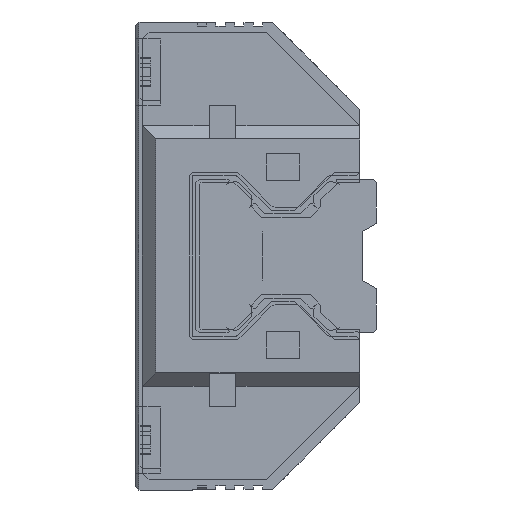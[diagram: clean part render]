
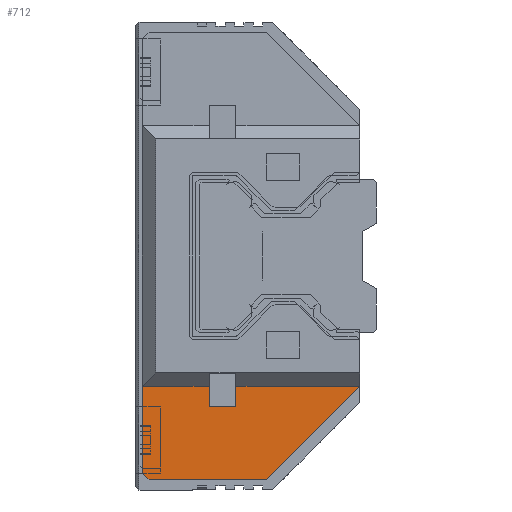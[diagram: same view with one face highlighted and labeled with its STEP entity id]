
A CAD part, left-side view. The second image highlights one B-rep face of the part: STEP entity #712.
In plain terms, the highlighted planar face has unit normal (-1, 0, 0).
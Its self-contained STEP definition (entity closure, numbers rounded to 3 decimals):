
#712 = ADVANCED_FACE( '', ( #2337 ), #2338, .T. );
#2337 = FACE_OUTER_BOUND( '', #4145, .T. );
#2338 = PLANE( '', #4146 );
#4145 = EDGE_LOOP( '', ( #8449, #8450, #8451, #8452, #8453, #8454, #8455, #8456, #8457 ) );
#4146 = AXIS2_PLACEMENT_3D( '', #8458, #8459, #8460 );
#8449 = ORIENTED_EDGE( '', *, *, #11073, .F. );
#8450 = ORIENTED_EDGE( '', *, *, #10962, .F. );
#8451 = ORIENTED_EDGE( '', *, *, #10947, .F. );
#8452 = ORIENTED_EDGE( '', *, *, #10990, .F. );
#8453 = ORIENTED_EDGE( '', *, *, #10988, .F. );
#8454 = ORIENTED_EDGE( '', *, *, #10986, .F. );
#8455 = ORIENTED_EDGE( '', *, *, #10959, .F. );
#8456 = ORIENTED_EDGE( '', *, *, #11069, .T. );
#8457 = ORIENTED_EDGE( '', *, *, #11072, .T. );
#8458 = CARTESIAN_POINT( '', ( -52., 49., -19.5 ) );
#8459 = DIRECTION( '', ( -1., 0., 0. ) );
#8460 = DIRECTION( '', ( 0., 0., 1. ) );
#10947 = EDGE_CURVE( '', #13458, #13459, #13460, .T. );
#10959 = EDGE_CURVE( '', #13479, #13481, #13482, .T. );
#10962 = EDGE_CURVE( '', #13459, #13475, #13485, .T. );
#10986 = EDGE_CURVE( '', #13481, #13525, #13526, .T. );
#10988 = EDGE_CURVE( '', #13525, #13528, #13529, .T. );
#10990 = EDGE_CURVE( '', #13528, #13458, #13531, .T. );
#11069 = EDGE_CURVE( '', #13479, #13659, #13661, .T. );
#11072 = EDGE_CURVE( '', #13659, #13664, #13666, .T. );
#11073 = EDGE_CURVE( '', #13475, #13664, #13667, .T. );
#13458 = VERTEX_POINT( '', #16892 );
#13459 = VERTEX_POINT( '', #16893 );
#13460 = LINE( '', #16894, #16895 );
#13475 = VERTEX_POINT( '', #16918 );
#13479 = VERTEX_POINT( '', #16924 );
#13481 = VERTEX_POINT( '', #16927 );
#13482 = LINE( '', #16928, #16929 );
#13485 = LINE( '', #16934, #16935 );
#13525 = VERTEX_POINT( '', #16998 );
#13526 = LINE( '', #16999, #17000 );
#13528 = VERTEX_POINT( '', #17003 );
#13529 = LINE( '', #17004, #17005 );
#13531 = LINE( '', #17008, #17009 );
#13659 = VERTEX_POINT( '', #17210 );
#13661 = LINE( '', #17213, #17214 );
#13664 = VERTEX_POINT( '', #17218 );
#13666 = LINE( '', #17221, #17222 );
#13667 = LINE( '', #17223, #17224 );
#16892 = CARTESIAN_POINT( '', ( -52., 21.5, -32.5 ) );
#16893 = CARTESIAN_POINT( '', ( -52., 21.5, -19.5 ) );
#16894 = CARTESIAN_POINT( '', ( -52., 21.5, -32.5 ) );
#16895 = VECTOR( '', #20183, 1000. );
#16918 = CARTESIAN_POINT( '', ( -52., 11.5, -19.5 ) );
#16924 = CARTESIAN_POINT( '', ( -52., 7.5, -19.5 ) );
#16927 = CARTESIAN_POINT( '', ( -52., -11., -19.5 ) );
#16928 = CARTESIAN_POINT( '', ( -52., 49., -19.5 ) );
#16929 = VECTOR( '', #20195, 1000. );
#16934 = CARTESIAN_POINT( '', ( -52., 49., -19.5 ) );
#16935 = VECTOR( '', #20198, 1000. );
#16998 = CARTESIAN_POINT( '', ( -52., 3., -33.5 ) );
#16999 = CARTESIAN_POINT( '', ( -52., -11., -19.5 ) );
#17000 = VECTOR( '', #20222, 1000. );
#17003 = CARTESIAN_POINT( '', ( -52., 20.5, -33.5 ) );
#17004 = CARTESIAN_POINT( '', ( -52., 3., -33.5 ) );
#17005 = VECTOR( '', #20224, 1000. );
#17008 = CARTESIAN_POINT( '', ( -52., 20.5, -33.5 ) );
#17009 = VECTOR( '', #20226, 1000. );
#17210 = CARTESIAN_POINT( '', ( -52., 7.5, -22.5 ) );
#17213 = CARTESIAN_POINT( '', ( -52., 7.5, -19.5 ) );
#17214 = VECTOR( '', #20313, 1000. );
#17218 = CARTESIAN_POINT( '', ( -52., 11.5, -22.5 ) );
#17221 = CARTESIAN_POINT( '', ( -52., 49., -22.5 ) );
#17222 = VECTOR( '', #20316, 1000. );
#17223 = CARTESIAN_POINT( '', ( -52., 11.5, -19.5 ) );
#17224 = VECTOR( '', #20317, 1000. );
#20183 = DIRECTION( '', ( 0., 0., 1. ) );
#20195 = DIRECTION( '', ( 0., -1., 0. ) );
#20198 = DIRECTION( '', ( 0., -1., 0. ) );
#20222 = DIRECTION( '', ( 0., 0.707, -0.707 ) );
#20224 = DIRECTION( '', ( 0., 1., 0. ) );
#20226 = DIRECTION( '', ( 0., 0.707, 0.707 ) );
#20313 = DIRECTION( '', ( 0., 0., -1. ) );
#20316 = DIRECTION( '', ( 0., 1., 0. ) );
#20317 = DIRECTION( '', ( 0., 0., -1. ) );
